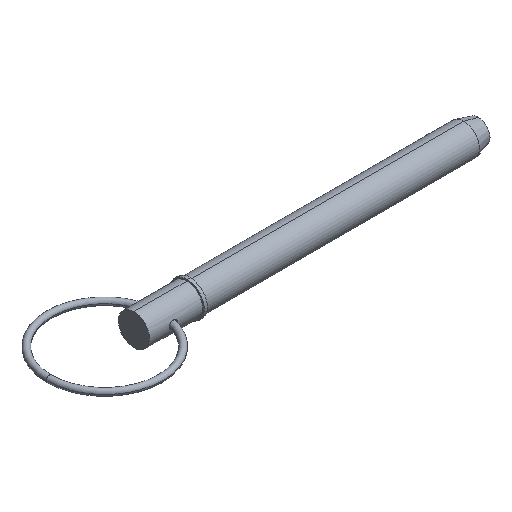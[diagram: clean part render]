
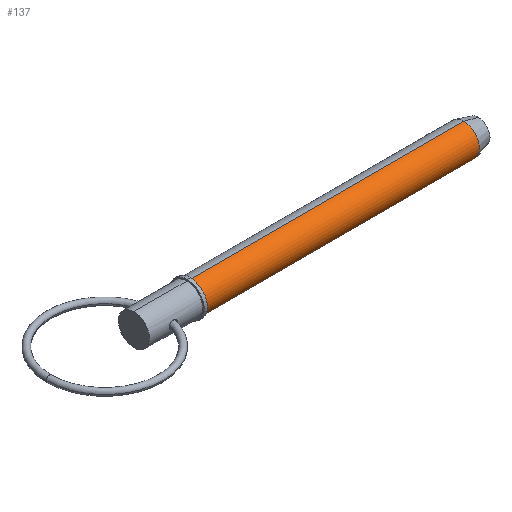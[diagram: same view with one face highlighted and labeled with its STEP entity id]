
A CAD part, isometric view. The second image highlights one B-rep face of the part: STEP entity #137.
In plain terms, the highlighted cylindrical face has radius 7.145 mm (diameter 14.29 mm), a partial arc.
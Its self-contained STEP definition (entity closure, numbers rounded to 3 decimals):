
#8 = EDGE_CURVE ( 'NONE', #619, #651, #885, .T. ) ;
#29 = EDGE_CURVE ( 'NONE', #45, #962, #63, .T. ) ;
#36 = DIRECTION ( 'NONE',  ( 1., 0., 0. ) ) ;
#40 = AXIS2_PLACEMENT_3D ( 'NONE', #257, #838, #686 ) ;
#45 = VERTEX_POINT ( 'NONE', #175 ) ;
#63 = CIRCLE ( 'NONE', #534, 7.145 ) ;
#105 = LINE ( 'NONE', #927, #232 ) ;
#121 = VECTOR ( 'NONE', #946, 1000. ) ;
#137 = ADVANCED_FACE ( 'NONE', ( #763 ), #252, .T. ) ;
#160 = EDGE_CURVE ( 'NONE', #45, #619, #413, .T. ) ;
#175 = CARTESIAN_POINT ( 'NONE',  ( 25.7, 0., 7.145 ) ) ;
#232 = VECTOR ( 'NONE', #36, 1000. ) ;
#252 = CYLINDRICAL_SURFACE ( 'NONE', #771, 7.145 ) ;
#257 = CARTESIAN_POINT ( 'NONE',  ( 150.784, 0., 0. ) ) ;
#329 = EDGE_CURVE ( 'NONE', #962, #651, #105, .T. ) ;
#335 = DIRECTION ( 'NONE',  ( 1., 0., 0. ) ) ;
#348 = DIRECTION ( 'NONE',  ( 0., 0., -1. ) ) ;
#413 = LINE ( 'NONE', #613, #121 ) ;
#497 = CARTESIAN_POINT ( 'NONE',  ( 25.7, 0., 0. ) ) ;
#517 = DIRECTION ( 'NONE',  ( 1., 0., 0. ) ) ;
#534 = AXIS2_PLACEMENT_3D ( 'NONE', #497, #335, #348 ) ;
#551 = EDGE_LOOP ( 'NONE', ( #889, #959, #1045, #874 ) ) ;
#610 = CARTESIAN_POINT ( 'NONE',  ( 150.784, 0., -7.145 ) ) ;
#613 = CARTESIAN_POINT ( 'NONE',  ( 0., 0., 7.145 ) ) ;
#619 = VERTEX_POINT ( 'NONE', #943 ) ;
#651 = VERTEX_POINT ( 'NONE', #610 ) ;
#686 = DIRECTION ( 'NONE',  ( 0., 0., -1. ) ) ;
#758 = CARTESIAN_POINT ( 'NONE',  ( 0., 0., 0. ) ) ;
#763 = FACE_OUTER_BOUND ( 'NONE', #551, .T. ) ;
#771 = AXIS2_PLACEMENT_3D ( 'NONE', #758, #517, #845 ) ;
#838 = DIRECTION ( 'NONE',  ( 1., 0., 0. ) ) ;
#845 = DIRECTION ( 'NONE',  ( 0., 0., -1. ) ) ;
#874 = ORIENTED_EDGE ( 'NONE', *, *, #8, .F. ) ;
#885 = CIRCLE ( 'NONE', #40, 7.145 ) ;
#889 = ORIENTED_EDGE ( 'NONE', *, *, #160, .F. ) ;
#927 = CARTESIAN_POINT ( 'NONE',  ( 0., 0., -7.145 ) ) ;
#943 = CARTESIAN_POINT ( 'NONE',  ( 150.784, 0., 7.145 ) ) ;
#946 = DIRECTION ( 'NONE',  ( 1., 0., 0. ) ) ;
#959 = ORIENTED_EDGE ( 'NONE', *, *, #29, .T. ) ;
#962 = VERTEX_POINT ( 'NONE', #976 ) ;
#976 = CARTESIAN_POINT ( 'NONE',  ( 25.7, 0., -7.145 ) ) ;
#1045 = ORIENTED_EDGE ( 'NONE', *, *, #329, .T. ) ;
